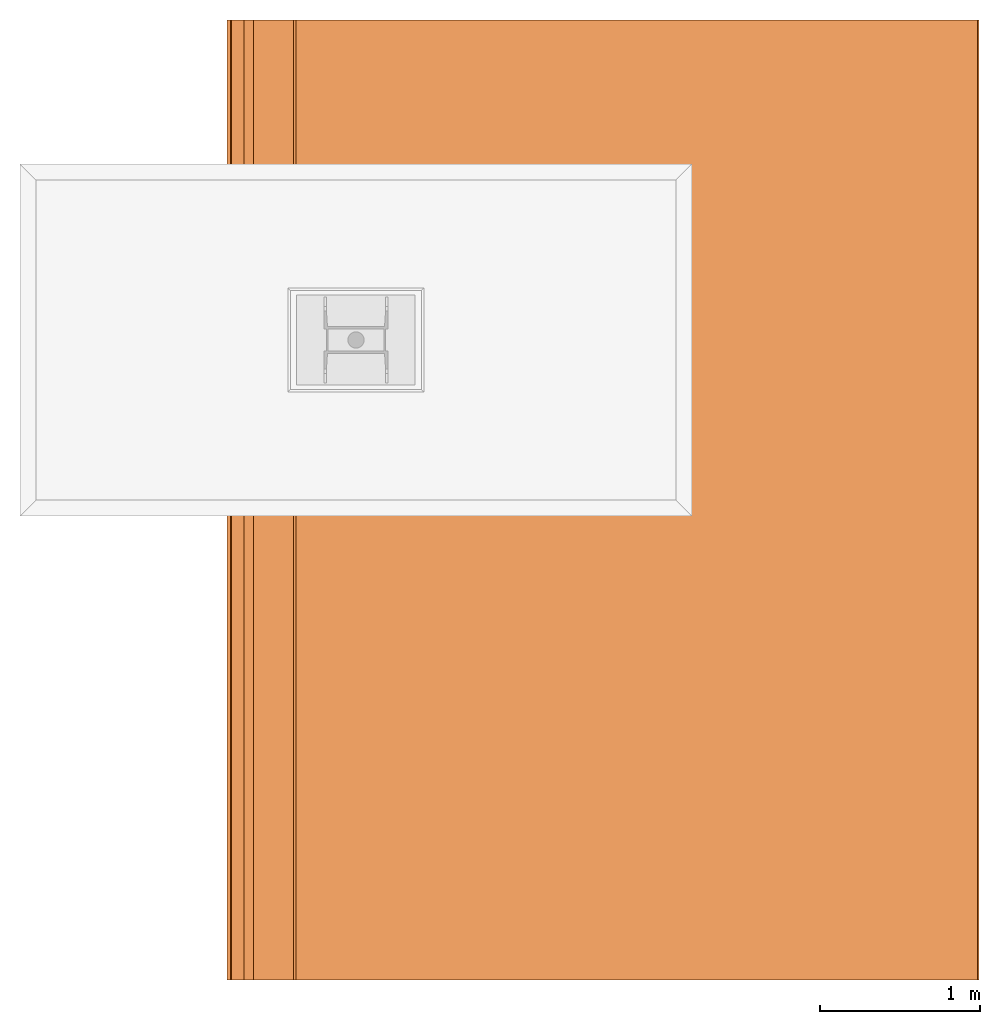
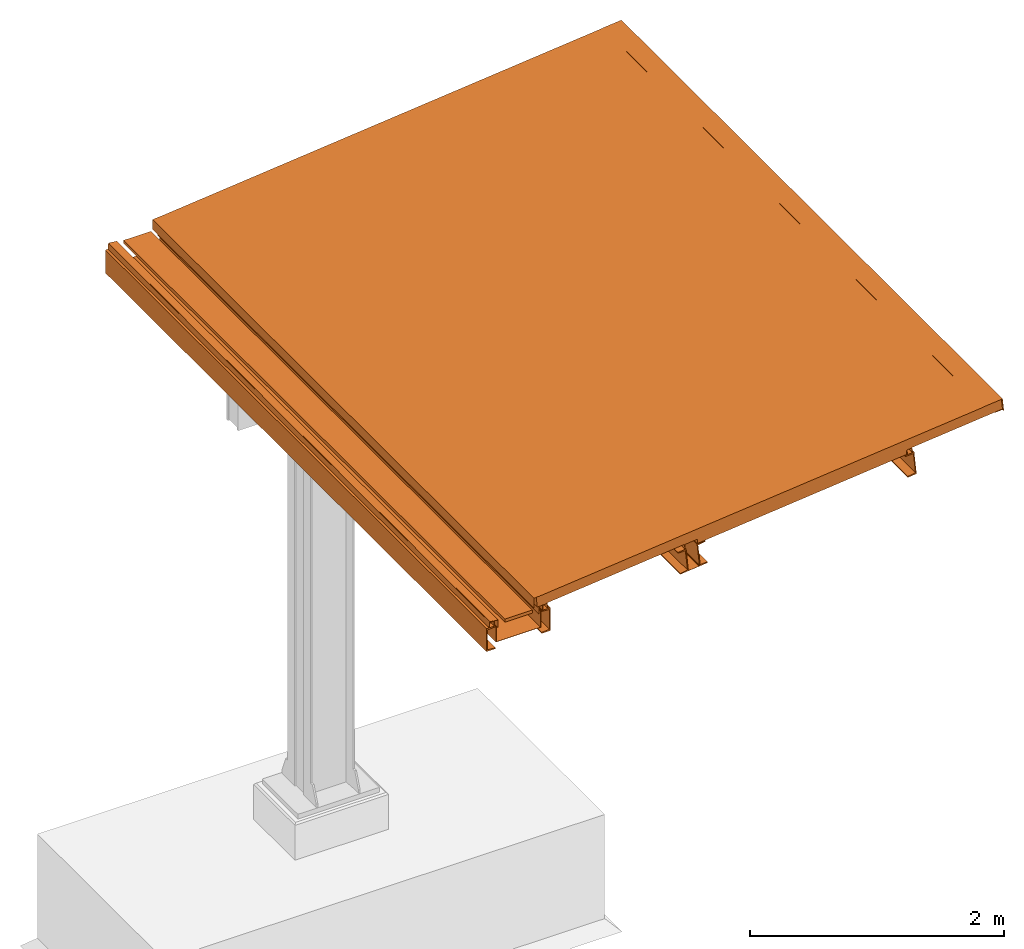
# One storey, part 2 of 2: 1 proxy.
"""IFC4 building model written with IfcOpenShell, lengths in metres."""

from ifc_helpers import new_model, entity, si_unit, converted_unit, direction, frame, origin, place, context, subcontext, project, spatial, polygons, source, transform, mapped, material, constituent, constituent_set, type_object, type_shapes, element, save


model = new_model("IFC4")

# Units and contexts
model_context = context("Model", 3, precision=1e-05, world=origin(), true_north=direction((6.123031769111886e-17, 1.0)))
body_context = subcontext(model_context, "Body", "Model", "MODEL_VIEW")
ifc_project = project(units=[si_unit("LENGTHUNIT", "METRE"), converted_unit("PLANEANGLEUNIT", "DEGREE", entity("IfcPlaneAngleMeasure", 0.017453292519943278), si_unit("PLANEANGLEUNIT", "RADIAN"), dimensions=[0, 0, 0, 0, 0, 0, 0])], contexts=[model_context])

# Site, building, storey
site_placement = place(None, origin())
site = spatial("IfcSite", under=ifc_project, at=site_placement, Name="Default", CompositionType="ELEMENT")
building_placement = place(site_placement, origin())
building = spatial("IfcBuilding", under=site, at=building_placement, CompositionType="ELEMENT")
storey_placement = place(building_placement, origin())
storey = spatial("IfcBuildingStorey", under=building, at=storey_placement, Name="DB_Bezugshoehe_max_Bahnsteigkante", CompositionType="ELEMENT", Elevation=0.0)

# Proxy
ifc_material_1 = material(Name="DB_Stahl_pulverbeschichtet_RAL9007", Category="DB_Stahl")
ifc_constituent_1 = constituent(ifc_material_1, Name="DB_Stahl_pulverbeschichtet_RAL9007", Category="DB_Stahl")
ifc_material_2 = material(Name="<Unnamed>")
ifc_constituent_2 = constituent(ifc_material_2, Name="<Unnamed>")
ifc_material_3 = material(Name="DB_Stahl_pulverbeschichtet_RAL9006", Category="DB_Stahl")
ifc_constituent_3 = constituent(ifc_material_3, Name="DB_Stahl_pulverbeschichtet_RAL9006", Category="DB_Stahl")
ifc_constituent_set_1 = constituent_set(constituents=[ifc_constituent_1, ifc_constituent_2, ifc_constituent_3])
ifc_constituent_4 = constituent(ifc_material_1, Name="DB_FAM_Volumen", Category="DB_Stahl")
ifc_constituent_5 = constituent(ifc_material_2, Name="DB_FAM_Volumen")
ifc_constituent_6 = constituent(ifc_material_3, Name="DB_FAM_Volumen", Category="DB_Stahl")
ifc_constituent_set_2 = constituent_set(constituents=[ifc_constituent_4, ifc_constituent_5, ifc_constituent_6])
building_element_proxy_type = type_object("IfcBuildingElementProxyType", Name="DB_Systemdach_Evolution2020_Typ_4_Mitte_Dach_Innenbogen_o.Fundament:DB_Systemdach_Evolution2020_Typ_4_Mitte_Dach_Innenbogen_o.Fundament", PredefinedType="NOTDEFINED", material=ifc_constituent_set_2)
shared_shape = source(origin(), body_context, "Body", "Tessellation", [
    polygons([(1.2314289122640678, -0.17999999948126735, 4.484997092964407), (1.2322747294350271, -0.17999999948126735, 4.4765371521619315), (1.1666312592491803, -0.17999999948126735, 4.464628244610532), (1.1857699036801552, -0.17999999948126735, 4.273221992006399), (1.2524699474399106, -0.17999999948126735, 4.2745448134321), (1.253315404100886, -0.17999999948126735, 4.266088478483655), (1.1786869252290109, -0.17999999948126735, 4.258626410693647), (1.1567983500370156, -0.17999999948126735, 4.477534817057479), (1.1567983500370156, -3.999999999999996, 4.477534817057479), (1.2314289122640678, -3.9999999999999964, 4.484997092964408), (1.1786869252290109, -3.999999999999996, 4.258626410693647), (1.2533154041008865, -3.9999999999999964, 4.266088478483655), (1.2524699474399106, -3.9999999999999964, 4.274544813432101), (1.185769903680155, -3.999999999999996, 4.273221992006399), (1.1666312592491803, -3.999999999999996, 4.464628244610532), (1.2322747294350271, -3.9999999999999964, 4.476537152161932)], [[[1, 2, 3, 4, 5, 6, 7, 8]], [[1, 8, 9, 10]], [[8, 7, 11, 9]], [[7, 6, 12, 11]], [[6, 5, 13, 12]], [[5, 4, 14, 13]], [[4, 3, 15, 14]], [[3, 2, 16, 15]], [[2, 1, 10, 16]], [[10, 9, 11, 12, 13, 14, 15, 16]]], closed=True),
    polygons([(0.9826684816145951, -0.17999999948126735, 4.460123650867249), (0.9835144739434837, -0.17999999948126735, 4.451663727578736), (0.9835144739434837, -3.9999999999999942, 4.451663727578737), (0.9826684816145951, -3.9999999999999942, 4.46012365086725), (1.0502163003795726, -0.17999999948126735, 4.452987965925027), (1.0502163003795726, -3.9999999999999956, 4.452987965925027), (1.0693549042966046, -0.17999999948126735, 4.261581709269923), (1.0693549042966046, -3.9999999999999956, 4.261581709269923), (1.0037134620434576, -0.17999999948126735, 4.249671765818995), (1.003713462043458, -3.9999999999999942, 4.249671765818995), (1.004559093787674, -0.17999999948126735, 4.241215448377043), (1.004559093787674, -3.9999999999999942, 4.241215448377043), (1.0791875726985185, -0.17999999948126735, 4.248677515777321), (1.0791875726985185, -3.9999999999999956, 4.248677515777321), (1.0572990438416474, -0.17999999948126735, 4.46758592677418), (1.0572990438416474, -3.9999999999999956, 4.46758592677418)], [[[1, 2, 3, 4]], [[2, 5, 6, 3]], [[5, 7, 8, 6]], [[7, 9, 10, 8]], [[9, 11, 12, 10]], [[11, 13, 14, 12]], [[13, 15, 16, 14]], [[15, 1, 4, 16]], [[4, 3, 6, 8, 10, 12, 14, 16]], [[1, 15, 13, 11, 9, 7, 5, 2]]], closed=True),
    polygons([(1.081197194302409, -0.17999999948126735, 4.248878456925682), (1.1766773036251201, -0.17999999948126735, 4.258425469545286), (1.1766773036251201, -3.999999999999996, 4.258425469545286), (1.081197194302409, -3.9999999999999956, 4.248878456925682), (1.1753341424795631, -0.17999999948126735, 4.271858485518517), (1.1753341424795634, -3.999999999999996, 4.271858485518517), (1.1733440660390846, -0.17999999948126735, 4.271659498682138), (1.1733440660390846, -3.999999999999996, 4.271659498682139), (1.1744882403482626, -0.17999999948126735, 4.260216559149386), (1.1744882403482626, -3.999999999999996, 4.260216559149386), (1.082988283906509, -0.17999999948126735, 4.251067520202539), (1.082988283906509, -3.9999999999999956, 4.25106752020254), (1.081844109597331, -0.17999999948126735, 4.262510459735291), (1.081844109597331, -3.9999999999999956, 4.262510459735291), (1.0798540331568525, -0.17999999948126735, 4.2623114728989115), (1.0798540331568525, -3.9999999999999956, 4.2623114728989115)], [[[1, 2, 3, 4]], [[2, 5, 6, 3]], [[5, 7, 8, 6]], [[7, 9, 10, 8]], [[9, 11, 12, 10]], [[11, 13, 14, 12]], [[13, 15, 16, 14]], [[15, 1, 4, 16]], [[4, 3, 6, 8, 10, 12, 14, 16]], [[1, 15, 13, 11, 9, 7, 5, 2]]], closed=True),
    polygons([(3.1107346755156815, 1.9999999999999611, 4.723154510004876), (3.060982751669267, 1.999999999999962, 4.7181799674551), (3.060982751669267, -4.000000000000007, 4.7181799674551), (3.1107346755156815, -4.000000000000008, 4.723154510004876), (3.1157092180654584, 1.9999999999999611, 4.673402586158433), (3.1157092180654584, -4.000000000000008, 4.673402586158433), (3.1127241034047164, 1.9999999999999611, 4.673104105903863), (3.1127241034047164, -4.000000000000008, 4.673104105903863), (3.1080480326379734, 1.9999999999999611, 4.7198709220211), (3.108048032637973, -4.000000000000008, 4.7198709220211), (3.0642663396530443, 1.999999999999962, 4.715493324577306), (3.0642663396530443, -4.000000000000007, 4.715493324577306), (3.0689424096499, 1.999999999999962, 4.668726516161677), (3.0689424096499, -4.000000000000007, 4.668726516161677), (3.0659572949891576, 1.999999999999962, 4.668428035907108), (3.0659572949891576, -4.000000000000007, 4.668428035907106)], [[[1, 2, 3, 4]], [[5, 1, 4, 6]], [[7, 5, 6, 8]], [[9, 7, 8, 10]], [[11, 9, 10, 12]], [[13, 11, 12, 14]], [[15, 13, 14, 16]], [[2, 15, 16, 3]], [[2, 1, 5, 7, 9, 11, 13, 15]], [[4, 3, 16, 14, 12, 10, 8, 6]]], closed=True),
    polygons([(3.129470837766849, 1.999999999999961, 4.674781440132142), (3.049867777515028, 1.9999999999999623, 4.66682196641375), (3.049867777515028, -4.000000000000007, 4.66682196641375), (3.129470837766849, -4.000000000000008, 4.674781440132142), (3.1513593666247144, 1.9999999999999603, 4.45587302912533), (3.1513593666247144, -4.000000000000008, 4.45587302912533), (3.0717563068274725, 1.999999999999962, 4.447913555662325), (3.0717563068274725, -4.000000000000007, 4.447913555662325), (3.0707215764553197, 1.999999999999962, 4.458261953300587), (3.0707215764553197, -4.000000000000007, 4.458261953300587), (3.141012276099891, 1.999999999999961, 4.468896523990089), (3.141012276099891, -4.000000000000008, 4.468896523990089), (3.1219072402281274, 1.9999999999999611, 4.6599670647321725), (3.1219072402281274, -4.000000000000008, 4.6599670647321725), (3.05090250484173, 1.999999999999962, 4.656473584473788), (3.05090250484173, -4.000000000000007, 4.656473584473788)], [[[1, 2, 3, 4]], [[5, 1, 4, 6]], [[7, 5, 6, 8]], [[9, 7, 8, 10]], [[11, 9, 10, 12]], [[13, 11, 12, 14]], [[15, 13, 14, 16]], [[2, 15, 16, 3]], [[2, 1, 5, 7, 9, 11, 13, 15]], [[4, 3, 16, 14, 12, 10, 8, 6]]], closed=True),
    polygons([(1.161774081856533, 1.9999999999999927, 4.52828166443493), (1.042369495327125, 1.9999999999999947, 4.516342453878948), (1.042369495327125, -3.9999999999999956, 4.516342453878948), (1.161774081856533, -3.999999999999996, 4.52828166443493), (1.04734416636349, 1.9999999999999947, 4.4665905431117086), (1.0473441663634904, -3.9999999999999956, 4.4665905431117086), (1.0503292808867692, 1.9999999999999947, 4.466889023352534), (1.0503292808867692, -3.9999999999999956, 4.466889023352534), (1.0456530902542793, 1.9999999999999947, 4.5136558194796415), (1.0456530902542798, -3.9999999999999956, 4.5136558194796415), (1.1590874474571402, 1.9999999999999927, 4.524998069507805), (1.1590874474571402, -3.999999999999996, 4.524998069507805), (1.1637636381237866, 1.9999999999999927, 4.478231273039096), (1.1637636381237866, -3.999999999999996, 4.478231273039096), (1.1667487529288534, 1.9999999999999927, 4.4785297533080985), (1.1667487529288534, -3.999999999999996, 4.4785297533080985)], [[[1, 2, 3, 4]], [[2, 5, 6, 3]], [[5, 7, 8, 6]], [[7, 9, 10, 8]], [[9, 11, 12, 10]], [[11, 13, 14, 12]], [[13, 15, 16, 14]], [[15, 1, 4, 16]], [[2, 1, 15, 13, 11, 9, 7, 5]], [[4, 3, 6, 8, 10, 12, 14, 16]]], closed=True),
    polygons([(1.231428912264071, 0.17999999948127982, 4.484997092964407), (1.156798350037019, 0.17999999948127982, 4.477534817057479), (1.178686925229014, 0.17999999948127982, 4.258626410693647), (1.2533154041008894, 0.17999999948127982, 4.266088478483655), (1.2524699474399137, 0.17999999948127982, 4.2745448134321), (1.1857699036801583, 0.17999999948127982, 4.273221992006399), (1.1666312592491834, 0.17999999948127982, 4.464628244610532), (1.23227472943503, 0.17999999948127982, 4.4765371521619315), (1.231428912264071, 1.9999999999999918, 4.484997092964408), (1.156798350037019, 1.999999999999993, 4.477534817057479), (1.178686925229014, 1.9999999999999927, 4.258626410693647), (1.2533154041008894, 1.9999999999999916, 4.266088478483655), (1.2524699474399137, 1.9999999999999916, 4.274544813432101), (1.185769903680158, 1.9999999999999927, 4.273221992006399), (1.1666312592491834, 1.999999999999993, 4.464628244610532), (1.2322747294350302, 1.9999999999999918, 4.476537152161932)], [[[1, 2, 3, 4, 5, 6, 7, 8]], [[2, 1, 9, 10]], [[3, 2, 10, 11]], [[4, 3, 11, 12]], [[5, 4, 12, 13]], [[6, 5, 13, 14]], [[7, 6, 14, 15]], [[8, 7, 15, 16]], [[1, 8, 16, 9]], [[10, 9, 16, 15, 14, 13, 12, 11]]], closed=True),
    polygons([(0.9835144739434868, 0.17999999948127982, 4.451663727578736), (0.9826684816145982, 0.17999999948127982, 4.460123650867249), (0.9826684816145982, 1.9999999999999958, 4.46012365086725), (0.9835144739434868, 1.9999999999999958, 4.451663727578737), (1.0502163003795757, 0.17999999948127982, 4.452987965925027), (1.0502163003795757, 1.9999999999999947, 4.452987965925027), (1.069354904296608, 0.17999999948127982, 4.261581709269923), (1.069354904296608, 1.9999999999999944, 4.261581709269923), (1.0037134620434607, 0.17999999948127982, 4.249671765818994), (1.0037134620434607, 1.9999999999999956, 4.249671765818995), (1.0045590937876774, 0.17999999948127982, 4.241215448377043), (1.0045590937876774, 1.9999999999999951, 4.241215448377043), (1.0791875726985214, 0.17999999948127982, 4.248677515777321), (1.0791875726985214, 1.9999999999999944, 4.248677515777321), (1.0572990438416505, 0.17999999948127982, 4.46758592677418), (1.0572990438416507, 1.9999999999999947, 4.46758592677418)], [[[1, 2, 3, 4]], [[5, 1, 4, 6]], [[7, 5, 6, 8]], [[9, 7, 8, 10]], [[11, 9, 10, 12]], [[13, 11, 12, 14]], [[15, 13, 14, 16]], [[2, 15, 16, 3]], [[4, 3, 16, 14, 12, 10, 8, 6]], [[2, 1, 5, 7, 9, 11, 13, 15]]], closed=True),
    polygons([(1.176677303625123, 0.17999999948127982, 4.258425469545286), (1.0811971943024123, 0.17999999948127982, 4.248878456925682), (1.0811971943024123, 1.9999999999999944, 4.248878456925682), (1.176677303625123, 1.9999999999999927, 4.258425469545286), (1.1753341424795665, 0.17999999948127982, 4.271858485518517), (1.1753341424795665, 1.9999999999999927, 4.271858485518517), (1.1733440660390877, 0.17999999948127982, 4.271659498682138), (1.1733440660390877, 1.9999999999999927, 4.271659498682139), (1.1744882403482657, 0.17999999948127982, 4.260216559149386), (1.1744882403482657, 1.9999999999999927, 4.260216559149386), (1.0829882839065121, 0.17999999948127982, 4.251067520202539), (1.0829882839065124, 1.9999999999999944, 4.251067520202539), (1.0818441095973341, 0.17999999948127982, 4.2625104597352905), (1.0818441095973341, 1.9999999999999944, 4.262510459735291), (1.0798540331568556, 0.17999999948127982, 4.2623114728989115), (1.0798540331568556, 1.9999999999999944, 4.2623114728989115)], [[[1, 2, 3, 4]], [[5, 1, 4, 6]], [[7, 5, 6, 8]], [[9, 7, 8, 10]], [[11, 9, 10, 12]], [[13, 11, 12, 14]], [[15, 13, 14, 16]], [[2, 15, 16, 3]], [[4, 3, 16, 14, 12, 10, 8, 6]], [[2, 1, 5, 7, 9, 11, 13, 15]]], closed=True),
    polygons([(1.1667464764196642, -3.024999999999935, 4.478552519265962), (1.161771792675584, -3.025000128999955, 4.528304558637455), (1.1617717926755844, -2.975000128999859, 4.528304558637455), (1.1667464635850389, -2.975000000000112, 4.478552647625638), (3.0659548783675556, -3.024999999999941, 4.668453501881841), (3.0659548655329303, -2.975000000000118, 4.668453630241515), (3.060980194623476, -2.9750001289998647, 4.718205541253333), (3.060980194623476, -3.025000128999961, 4.718205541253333)], [[[1, 2, 3, 4]], [[5, 6, 7, 8]], [[2, 1, 5, 8]], [[3, 2, 8, 7]], [[4, 3, 7, 6]], [[1, 4, 6, 5]]], closed=True),
    polygons([(1.1667452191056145, -3.0249999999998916, 4.4785650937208), (1.1617705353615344, -3.0250001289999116, 4.528317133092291), (1.1617705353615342, -2.9750001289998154, 4.528317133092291), (1.1667452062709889, -2.975000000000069, 4.478565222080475), (3.0659536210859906, -3.024999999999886, 4.668466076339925), (3.065953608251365, -2.9750000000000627, 4.6684662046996), (3.060978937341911, -2.9750001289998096, 4.718218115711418), (3.0609789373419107, -3.025000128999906, 4.718218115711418)], [[[1, 2, 3, 4]], [[5, 6, 7, 8]], [[2, 1, 5, 8]], [[3, 2, 8, 7]], [[4, 3, 7, 6]], [[1, 4, 6, 5]]], closed=True),
    polygons([(1.1667464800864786, -1.024999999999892, 4.4785524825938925), (1.1617717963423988, -1.0250001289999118, 4.528304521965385), (1.1617717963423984, -0.9750001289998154, 4.528304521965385), (1.1667464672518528, -0.9750000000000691, 4.478552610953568), (3.0659548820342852, -1.024999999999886, 4.668453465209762), (3.06595486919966, -0.975000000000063, 4.668453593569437), (3.0609801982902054, -0.9750001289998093, 4.718205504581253), (3.0609801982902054, -1.0250001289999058, 4.718205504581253)], [[[1, 2, 3, 4]], [[5, 6, 7, 8]], [[2, 1, 5, 8]], [[3, 2, 8, 7]], [[4, 3, 7, 6]], [[1, 4, 6, 5]]], closed=True),
    polygons([(1.166746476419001, 0.9750000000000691, 4.478552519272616), (1.161771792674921, 0.974999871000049, 4.528304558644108), (1.1617717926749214, 1.0249998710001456, 4.528304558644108), (1.1667464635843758, 1.024999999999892, 4.478552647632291), (3.0659548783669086, 0.975000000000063, 4.668453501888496), (3.0659548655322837, 1.024999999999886, 4.668453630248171), (3.060980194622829, 1.0249998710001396, 4.718205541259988), (3.060980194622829, 0.974999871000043, 4.718205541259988)], [[[1, 2, 3, 4]], [[5, 6, 7, 8]], [[2, 1, 5, 8]], [[3, 2, 8, 7]], [[4, 3, 7, 6]], [[1, 4, 6, 5]]], closed=True),
    polygons([(3.0659536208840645, -3.9929999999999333, 4.668466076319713), (3.065953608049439, -3.94300000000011, 4.6684662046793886), (3.0609789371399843, -3.9430001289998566, 4.718218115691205), (3.0609789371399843, -3.9930001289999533, 4.718218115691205), (1.1667452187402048, -3.9929999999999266, 4.47856509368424), (1.161770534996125, -3.993000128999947, 4.528317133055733), (1.1617705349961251, -3.9430001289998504, 4.528317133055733), (1.1667452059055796, -3.9430000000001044, 4.478565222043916)], [[[1, 2, 3, 4]], [[5, 6, 7, 8]], [[5, 8, 2, 1]], [[8, 7, 3, 2]], [[7, 6, 4, 3]], [[6, 5, 1, 4]]], closed=True),
    polygons([(3.0659556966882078, 1.9430000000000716, 4.668450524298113), (3.065955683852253, 1.9929999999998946, 4.668450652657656), (3.0609804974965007, 1.9929998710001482, 4.718202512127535), (3.0609804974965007, 1.9429998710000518, 4.718202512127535), (1.1667492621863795, 1.9430000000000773, 4.4785298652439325), (1.161774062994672, 1.9429998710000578, 4.528281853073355), (1.161774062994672, 1.9929998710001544, 4.528281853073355), (1.1667492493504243, 1.9929999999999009, 4.478529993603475)], [[[1, 2, 3, 4]], [[5, 6, 7, 8]], [[5, 8, 2, 1]], [[8, 7, 3, 2]], [[7, 6, 4, 3]], [[6, 5, 1, 4]]], closed=True),
    polygons([(3.926389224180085, 1.9999999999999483, 4.800413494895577), (3.863757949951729, 1.9999999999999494, 4.7941503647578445), (3.863757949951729, -4.0000000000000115, 4.7941503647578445), (3.926389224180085, -4.0000000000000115, 4.800413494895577), (3.863907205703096, 1.9999999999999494, 4.792657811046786), (3.863907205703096, -4.0000000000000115, 4.7926578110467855), (3.9259202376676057, 1.9999999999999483, 4.798859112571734), (3.9259202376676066, -4.0000000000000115, 4.798859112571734), (3.9452691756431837, 1.9999999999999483, 4.78302816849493), (3.9452691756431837, -4.000000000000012, 4.78302816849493), (3.933328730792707, 1.9999999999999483, 4.9024326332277), (3.933328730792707, -4.000000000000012, 4.9024326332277), (3.7641724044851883, 1.9999999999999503, 4.885516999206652), (3.7641724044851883, -4.0000000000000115, 4.885516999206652), (3.764323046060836, 1.9999999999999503, 4.8840105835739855), (3.764323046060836, -4.0000000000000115, 4.8840105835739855), (3.9319868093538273, 1.9999999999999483, 4.900776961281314), (3.9319868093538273, -4.000000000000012, 4.900776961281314), (3.9434162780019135, 1.9999999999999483, 4.786482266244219), (3.9434162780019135, -4.000000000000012, 4.786482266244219)], [[[1, 2, 3, 4]], [[2, 5, 6, 3]], [[5, 7, 8, 6]], [[7, 9, 10, 8]], [[9, 11, 12, 10]], [[11, 13, 14, 12]], [[13, 15, 16, 14]], [[15, 17, 18, 16]], [[17, 19, 20, 18]], [[19, 1, 4, 20]], [[2, 1, 19, 17, 15, 13, 11, 9, 7, 5]], [[4, 3, 6, 8, 10, 12, 14, 16, 18, 20]]], closed=True),
    polygons([(-0.2949598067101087, 2.000000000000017, 4.382608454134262), (3.9314892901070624, 1.9999999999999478, 4.805253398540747), (3.9314892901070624, -4.0000000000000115, 4.805253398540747), (-0.2949598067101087, -3.999999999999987, 4.382608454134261), (-0.3044126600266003, 2.000000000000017, 4.477136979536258), (-0.3044126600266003, -3.999999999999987, 4.477136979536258), (3.9220364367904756, 1.9999999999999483, 4.899781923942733), (3.9220364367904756, -4.000000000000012, 4.899781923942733)], [[[1, 2, 3, 4]], [[5, 1, 4, 6]], [[7, 5, 6, 8]], [[2, 7, 8, 3]], [[2, 1, 5, 7]], [[4, 3, 8, 6]]], closed=True),
    polygons([(-0.24983490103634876, 2.0000000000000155, 4.484102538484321), (-0.3244626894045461, 2.000000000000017, 4.47663976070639), (-0.3244626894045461, -3.999999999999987, 4.47663976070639), (-0.24983490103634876, -3.999999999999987, 4.484102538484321), (-0.3244626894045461, 2.0000000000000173, 4.381639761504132), (-0.32296268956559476, 2.000000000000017, 4.381639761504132), (-0.32296268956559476, -3.999999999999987, 4.381639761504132), (-0.3244626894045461, -3.999999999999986, 4.381639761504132), (-0.32296268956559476, 2.000000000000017, 4.475784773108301), (-0.32296268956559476, -3.999999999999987, 4.475784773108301), (-0.24973539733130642, 2.000000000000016, 4.483107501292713), (-0.24973539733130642, -3.999999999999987, 4.483107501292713)], [[[1, 2, 3, 4]], [[5, 6, 7, 8]], [[2, 5, 8, 3]], [[6, 9, 10, 7]], [[9, 11, 12, 10]], [[11, 1, 4, 12]], [[4, 3, 8, 7, 10, 12]], [[2, 1, 11, 9, 6, 5]]], closed=True),
    polygons([(-0.7549999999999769, 2.000000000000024, 4.334999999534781), (-0.7549999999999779, 2.000000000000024, 4.115000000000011), (-0.7549999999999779, -3.9999999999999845, 4.115000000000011), (-0.7549999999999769, -3.9999999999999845, 4.334999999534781), (-0.6749999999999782, 2.000000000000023, 4.334999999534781), (-0.6749999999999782, -3.9999999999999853, 4.334999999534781), (-0.6749999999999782, 2.000000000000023, 4.325699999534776), (-0.6749999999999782, -3.9999999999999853, 4.325699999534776), (-0.7459999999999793, 2.000000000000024, 4.320019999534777), (-0.7459999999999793, -3.9999999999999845, 4.320019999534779), (-0.74599999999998, 2.000000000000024, 4.129979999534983), (-0.74599999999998, -3.9999999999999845, 4.129979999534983), (-0.674999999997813, 2.000000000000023, 4.1242999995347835), (-0.674999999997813, -3.9999999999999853, 4.1242999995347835), (-0.6749999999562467, 2.000000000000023, 4.115000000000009), (-0.6749999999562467, -3.9999999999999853, 4.115000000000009)], [[[1, 2, 3, 4]], [[5, 1, 4, 6]], [[7, 5, 6, 8]], [[9, 7, 8, 10]], [[11, 9, 10, 12]], [[13, 11, 12, 14]], [[15, 13, 14, 16]], [[2, 15, 16, 3]], [[4, 3, 16, 14, 12, 10, 8, 6]], [[2, 1, 5, 7, 9, 11, 13, 15]]], closed=True),
    polygons([(-0.25500000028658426, 2.000000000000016, 4.115000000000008), (-0.17500000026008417, 2.0000000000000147, 4.115000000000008), (-0.17500000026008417, -3.999999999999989, 4.115000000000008), (-0.25500000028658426, -3.999999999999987, 4.115000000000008), (-0.2550000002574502, 2.000000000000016, 4.124299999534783), (-0.2550000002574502, -3.999999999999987, 4.124299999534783), (-0.18400000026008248, 2.0000000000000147, 4.129979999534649), (-0.18400000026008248, -3.999999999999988, 4.129979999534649), (-0.18400000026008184, 2.0000000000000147, 4.320019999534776), (-0.18400000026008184, -3.999999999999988, 4.320019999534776), (-0.255000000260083, 2.000000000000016, 4.325699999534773), (-0.255000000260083, -3.999999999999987, 4.325699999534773), (-0.2550000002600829, 2.000000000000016, 4.334999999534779), (-0.2550000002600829, -3.999999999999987, 4.334999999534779), (-0.17500000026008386, 2.0000000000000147, 4.334999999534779), (-0.17500000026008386, -3.999999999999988, 4.334999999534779)], [[[1, 2, 3, 4]], [[5, 1, 4, 6]], [[7, 5, 6, 8]], [[9, 7, 8, 10]], [[11, 9, 10, 12]], [[13, 11, 12, 14]], [[15, 13, 14, 16]], [[2, 15, 16, 3]], [[2, 1, 5, 7, 9, 11, 13, 15]], [[4, 3, 16, 14, 12, 10, 8, 6]]], closed=True),
    polygons([(-0.668499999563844, 2.000000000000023, 4.329499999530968), (-0.6684999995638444, 2.0000000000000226, 4.175999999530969), (-0.6684999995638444, -3.9999999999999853, 4.175999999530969), (-0.668499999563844, -3.9999999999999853, 4.329499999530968), (-0.6654999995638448, 2.000000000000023, 4.329499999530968), (-0.6654999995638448, -3.9999999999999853, 4.329499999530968), (-0.6654999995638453, 2.000000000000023, 4.178999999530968), (-0.6654999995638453, -3.9999999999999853, 4.178999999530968), (-0.26449999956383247, 2.0000000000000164, 4.1789999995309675), (-0.26449999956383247, -3.999999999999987, 4.1789999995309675), (-0.2644999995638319, 2.0000000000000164, 4.3294999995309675), (-0.2644999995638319, -3.999999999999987, 4.3294999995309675), (-0.26149999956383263, 2.0000000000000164, 4.3294999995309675), (-0.26149999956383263, -3.999999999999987, 4.3294999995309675), (-0.26149999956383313, 2.0000000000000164, 4.175999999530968), (-0.26149999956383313, -3.999999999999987, 4.175999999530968)], [[[1, 2, 3, 4]], [[5, 1, 4, 6]], [[7, 5, 6, 8]], [[9, 7, 8, 10]], [[11, 9, 10, 12]], [[13, 11, 12, 14]], [[15, 13, 14, 16]], [[2, 15, 16, 3]], [[4, 3, 16, 14, 12, 10, 8, 6]], [[2, 1, 5, 7, 9, 11, 13, 15]]], closed=True),
    polygons([(-0.6499999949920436, 2.0000000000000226, 4.384212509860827), (-0.7246277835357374, 2.0000000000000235, 4.3916752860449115), (-0.7246277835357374, -3.9999999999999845, 4.3916752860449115), (-0.6499999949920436, -3.9999999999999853, 4.384212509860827), (-0.6499999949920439, 2.0000000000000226, 4.309212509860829), (-0.6499999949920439, -3.9999999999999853, 4.309212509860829), (-0.6519999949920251, 2.0000000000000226, 4.309212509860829), (-0.6519999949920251, -3.9999999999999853, 4.309212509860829), (-0.6519999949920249, 2.0000000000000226, 4.382402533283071), (-0.6519999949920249, -3.9999999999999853, 4.382402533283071), (-0.7248267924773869, 2.0000000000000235, 4.389685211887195), (-0.7248267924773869, -3.9999999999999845, 4.389685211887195)], [[[1, 2, 3, 4]], [[5, 1, 4, 6]], [[7, 5, 6, 8]], [[9, 7, 8, 10]], [[11, 9, 10, 12]], [[2, 11, 12, 3]], [[4, 3, 12, 10, 8, 6]], [[2, 1, 5, 7, 9, 11]]], closed=True),
    polygons([(-0.2051731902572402, 2.000000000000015, 4.389685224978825), (-0.20537219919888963, 2.000000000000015, 4.3916752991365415), (-0.20537219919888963, -3.999999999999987, 4.3916752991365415), (-0.2051731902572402, -3.999999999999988, 4.389685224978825), (-0.27799998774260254, 2.0000000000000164, 4.3824025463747), (-0.27799998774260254, -3.999999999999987, 4.3824025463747), (-0.27799998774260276, 2.0000000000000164, 4.309212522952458), (-0.27799998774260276, -3.999999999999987, 4.309212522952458), (-0.2799999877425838, 2.0000000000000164, 4.309212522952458), (-0.2799999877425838, -3.999999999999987, 4.309212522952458), (-0.2799999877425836, 2.0000000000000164, 4.384212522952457), (-0.2799999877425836, -3.999999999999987, 4.384212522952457)], [[[1, 2, 3, 4]], [[5, 1, 4, 6]], [[7, 5, 6, 8]], [[9, 7, 8, 10]], [[11, 9, 10, 12]], [[2, 11, 12, 3]], [[4, 3, 12, 10, 8, 6]], [[2, 1, 5, 7, 9, 11]]], closed=True),
    polygons([(-0.7277766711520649, 2.0000000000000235, 4.389477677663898), (-0.7330950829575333, 2.0000000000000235, 4.336293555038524), (-0.7330950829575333, -3.9999999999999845, 4.336293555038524), (-0.7277766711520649, -3.9999999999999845, 4.389477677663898), (-0.6829999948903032, 2.000000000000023, 4.385000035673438), (-0.6829999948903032, -3.9999999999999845, 4.385000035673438), (-0.6829999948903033, 2.000000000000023, 4.336000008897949), (-0.6829999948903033, -3.9999999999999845, 4.336000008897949), (-0.6859999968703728, 2.000000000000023, 4.336000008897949), (-0.6859999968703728, -3.9999999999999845, 4.336000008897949), (-0.6859999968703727, 2.000000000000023, 4.3822850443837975), (-0.6859999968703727, -3.9999999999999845, 4.3822850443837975), (-0.7250900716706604, 2.0000000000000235, 4.386194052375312), (-0.7250900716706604, -3.9999999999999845, 4.386194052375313), (-0.7301099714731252, 2.0000000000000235, 4.3359950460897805), (-0.7301099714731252, -3.9999999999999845, 4.3359950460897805)], [[[1, 2, 3, 4]], [[5, 1, 4, 6]], [[7, 5, 6, 8]], [[9, 7, 8, 10]], [[11, 9, 10, 12]], [[13, 11, 12, 14]], [[15, 13, 14, 16]], [[2, 15, 16, 3]], [[4, 3, 16, 14, 12, 10, 8, 6]], [[2, 1, 5, 7, 9, 11, 13, 15]]], closed=True),
    polygons([(-0.1998900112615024, 2.000000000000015, 4.33599504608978), (-0.19690489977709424, 2.000000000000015, 4.336293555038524), (-0.19690489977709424, -3.999999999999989, 4.336293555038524), (-0.1998900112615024, -3.999999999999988, 4.33599504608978), (-0.20490991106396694, 2.000000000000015, 4.386194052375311), (-0.20490991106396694, -3.999999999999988, 4.386194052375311), (-0.2439999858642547, 2.000000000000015, 4.382285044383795), (-0.2439999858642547, -3.999999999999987, 4.382285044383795), (-0.24399998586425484, 2.000000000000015, 4.336000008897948), (-0.24399998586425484, -3.999999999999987, 4.336000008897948), (-0.24699998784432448, 2.000000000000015, 4.336000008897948), (-0.24699998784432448, -3.999999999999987, 4.336000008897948), (-0.24699998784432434, 2.000000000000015, 4.385000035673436), (-0.24699998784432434, -3.999999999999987, 4.385000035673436), (-0.20222331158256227, 2.000000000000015, 4.389477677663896), (-0.20222331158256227, -3.999999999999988, 4.389477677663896)], [[[1, 2, 3, 4]], [[5, 1, 4, 6]], [[7, 5, 6, 8]], [[9, 7, 8, 10]], [[11, 9, 10, 12]], [[13, 11, 12, 14]], [[15, 13, 14, 16]], [[2, 15, 16, 3]], [[4, 3, 16, 14, 12, 10, 8, 6]], [[2, 1, 5, 7, 9, 11, 13, 15]]], closed=True),
    polygons([(-0.33999999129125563, 2.0000000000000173, 4.339872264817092), (-0.3399999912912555, 2.0000000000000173, 4.369872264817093), (-0.3399999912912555, -3.999999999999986, 4.369872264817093), (-0.33999999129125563, -3.999999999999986, 4.339872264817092), (-0.5899999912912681, 2.0000000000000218, 4.339872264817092), (-0.5899999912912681, -3.999999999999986, 4.339872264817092), (-0.5899999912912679, 2.0000000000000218, 4.369872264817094), (-0.589999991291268, -3.999999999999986, 4.369872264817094)], [[[1, 2, 3, 4]], [[5, 1, 4, 6]], [[7, 5, 6, 8]], [[2, 7, 8, 3]], [[4, 3, 8, 6]], [[2, 1, 5, 7]]], closed=True),
])
type_shapes(building_element_proxy_type, [shared_shape])
proxy_placement = place(storey_placement, frame((-0.050000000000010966, 0.17477232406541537, 0.0)))
element("IfcBuildingElementProxy", 1, at=proxy_placement, inside=storey, type_object=building_element_proxy_type, material=ifc_constituent_set_1, Name="DB_Systemdach_Evolution2020_Typ_4_Mitte_Dach_Innenbogen_o.Fundament:DB_Systemdach_Evolution2020_Typ_4_Mitte_Dach_Innenbogen_o.Fundament", ObjectType="DB_Systemdach_Evolution2020_Typ_4_Mitte_Dach_Innenbogen_o.Fundament:DB_Systemdach_Evolution2020_Typ_4_Mitte_Dach_Innenbogen_o.Fundament", PredefinedType="NOTDEFINED", context=body_context, shape_type="MappedRepresentation", body=[
    mapped(shared_shape, transform((0.0, 0.0, 0.0), scale=1.0)),
])

save(model, "model.ifc")
